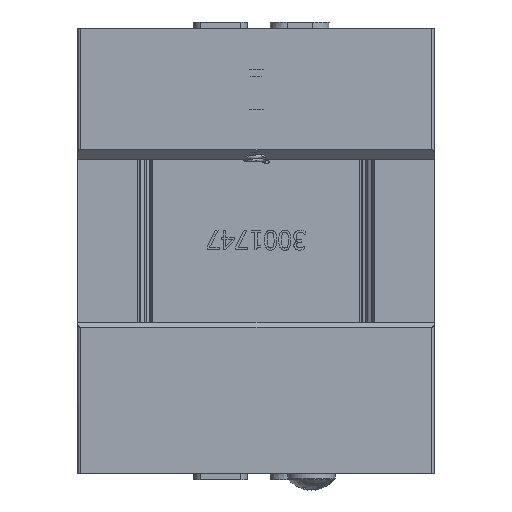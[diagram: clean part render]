
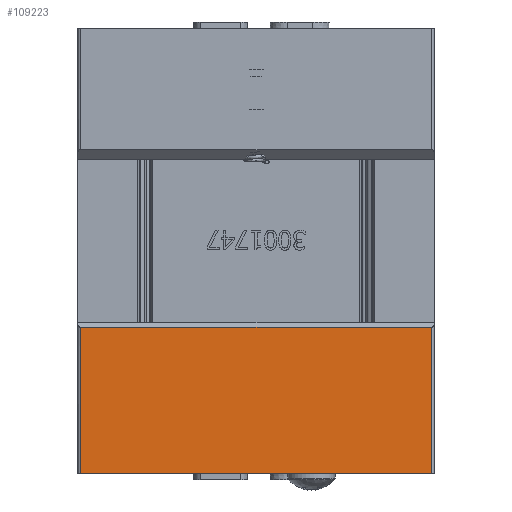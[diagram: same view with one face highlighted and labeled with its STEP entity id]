
A CAD part, front view. The second image highlights one B-rep face of the part: STEP entity #109223.
In plain terms, the highlighted planar face has unit normal (0, -1, 0).
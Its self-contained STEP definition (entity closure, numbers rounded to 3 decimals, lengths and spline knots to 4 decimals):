
#12584=FACE_OUTER_BOUND('',#18677,.T.);
#18677=EDGE_LOOP('',(#97151,#97152,#97153,#97154));
#30274=LINE('',#192904,#42049);
#30391=LINE('',#193698,#42166);
#30402=LINE('',#193728,#42177);
#30410=LINE('',#193742,#42185);
#42049=VECTOR('',#144808,0.3937);
#42166=VECTOR('',#145539,0.3937);
#42177=VECTOR('',#145572,0.3937);
#42185=VECTOR('',#145586,0.3937);
#52095=VERTEX_POINT('',#192901);
#52096=VERTEX_POINT('',#192903);
#52465=VERTEX_POINT('',#193695);
#52466=VERTEX_POINT('',#193697);
#67145=EDGE_CURVE('',#52095,#52096,#30274,.T.);
#67541=EDGE_CURVE('',#52466,#52465,#30391,.T.);
#67558=EDGE_CURVE('',#52466,#52095,#30402,.T.);
#67566=EDGE_CURVE('',#52096,#52465,#30410,.T.);
#97151=ORIENTED_EDGE('',*,*,#67541,.T.);
#97152=ORIENTED_EDGE('',*,*,#67566,.F.);
#97153=ORIENTED_EDGE('',*,*,#67145,.F.);
#97154=ORIENTED_EDGE('',*,*,#67558,.F.);
#103978=PLANE('',#118025);
#109223=ADVANCED_FACE('',(#12584),#103978,.T.);
#118025=AXIS2_PLACEMENT_3D('',#193741,#145584,#145585);
#144808=DIRECTION('',(1.,0.,0.));
#145539=DIRECTION('',(1.,0.,0.));
#145572=DIRECTION('',(0.,0.,1.));
#145584=DIRECTION('center_axis',(0.,-1.,0.));
#145585=DIRECTION('ref_axis',(1.,0.,0.));
#145586=DIRECTION('',(0.,0.,-1.));
#192901=CARTESIAN_POINT('',(0.02,0.,3.5));
#192903=CARTESIAN_POINT('',(2.78,0.,3.5));
#192904=CARTESIAN_POINT('',(0.,0.,3.5));
#193695=CARTESIAN_POINT('',(2.78,0.,2.351));
#193697=CARTESIAN_POINT('',(0.02,0.,2.351));
#193698=CARTESIAN_POINT('',(0.,0.,2.351));
#193728=CARTESIAN_POINT('',(0.02,0.,0.));
#193741=CARTESIAN_POINT('Origin',(0.,0.,0.));
#193742=CARTESIAN_POINT('',(2.78,0.,0.));
